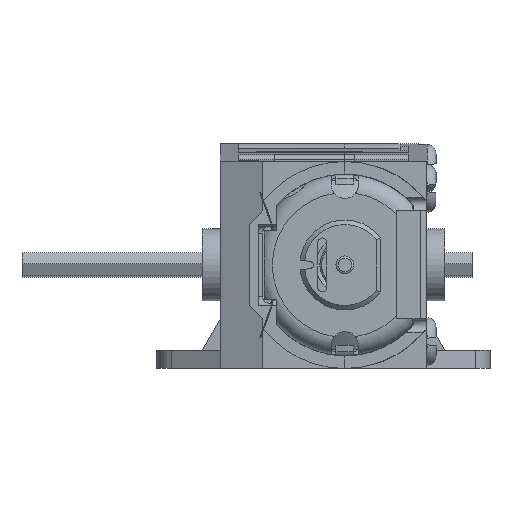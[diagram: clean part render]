
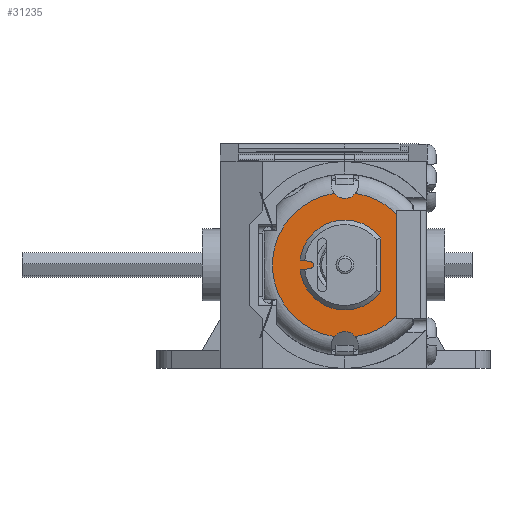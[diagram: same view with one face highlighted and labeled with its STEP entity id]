
A CAD part, left-side view. The second image highlights one B-rep face of the part: STEP entity #31235.
In plain terms, the highlighted planar face has unit normal (-1, 0, 0) as drawn and (0, 0, -1) by its records, which use the part's own axes.
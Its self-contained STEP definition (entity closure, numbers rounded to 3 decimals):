
#1786=FACE_BOUND('',#4803,.T.);
#2211=PLANE('',#33498);
#2987=FACE_OUTER_BOUND('',#4802,.T.);
#4802=EDGE_LOOP('',(#22261,#22262,#22263,#22264,#22265,#22266));
#4803=EDGE_LOOP('',(#22267,#22268,#22269,#22270,#22271,#22272));
#6982=LINE('',#49506,#9197);
#6983=LINE('',#49510,#9198);
#6984=LINE('',#49512,#9199);
#6985=LINE('',#49515,#9200);
#9197=VECTOR('',#37830,1000.);
#9198=VECTOR('',#37833,1000.);
#9199=VECTOR('',#37834,1000.);
#9200=VECTOR('',#37837,1000.);
#10933=CIRCLE('',#33417,1.5);
#10952=CIRCLE('',#33444,5.);
#10974=CIRCLE('',#33477,8.05);
#10976=CIRCLE('',#33481,8.05);
#10986=CIRCLE('',#33499,8.05);
#10987=CIRCLE('',#33500,1.5);
#10988=CIRCLE('',#33501,5.);
#10989=CIRCLE('',#33502,0.4);
#12740=VERTEX_POINT('',#49015);
#12741=VERTEX_POINT('',#49026);
#12772=VERTEX_POINT('',#49111);
#12773=VERTEX_POINT('',#49113);
#12848=VERTEX_POINT('',#49365);
#12852=VERTEX_POINT('',#49399);
#12885=VERTEX_POINT('',#49502);
#12886=VERTEX_POINT('',#49503);
#12887=VERTEX_POINT('',#49507);
#12888=VERTEX_POINT('',#49508);
#12889=VERTEX_POINT('',#49511);
#12890=VERTEX_POINT('',#49513);
#16264=EDGE_CURVE('',#12741,#12740,#10933,.T.);
#16299=EDGE_CURVE('',#12772,#12773,#10952,.T.);
#16385=EDGE_CURVE('',#12848,#12741,#10974,.T.);
#16393=EDGE_CURVE('',#12740,#12852,#10976,.T.);
#16436=EDGE_CURVE('',#12885,#12886,#10986,.T.);
#16437=EDGE_CURVE('',#12886,#12848,#10987,.T.);
#16438=EDGE_CURVE('',#12885,#12852,#6982,.T.);
#16439=EDGE_CURVE('',#12887,#12888,#10988,.T.);
#16440=EDGE_CURVE('',#12773,#12887,#6983,.T.);
#16441=EDGE_CURVE('',#12772,#12889,#6984,.T.);
#16442=EDGE_CURVE('',#12889,#12890,#10989,.T.);
#16443=EDGE_CURVE('',#12890,#12888,#6985,.T.);
#22261=ORIENTED_EDGE('',*,*,#16436,.T.);
#22262=ORIENTED_EDGE('',*,*,#16437,.T.);
#22263=ORIENTED_EDGE('',*,*,#16385,.T.);
#22264=ORIENTED_EDGE('',*,*,#16264,.T.);
#22265=ORIENTED_EDGE('',*,*,#16393,.T.);
#22266=ORIENTED_EDGE('',*,*,#16438,.F.);
#22267=ORIENTED_EDGE('',*,*,#16439,.F.);
#22268=ORIENTED_EDGE('',*,*,#16440,.F.);
#22269=ORIENTED_EDGE('',*,*,#16299,.F.);
#22270=ORIENTED_EDGE('',*,*,#16441,.T.);
#22271=ORIENTED_EDGE('',*,*,#16442,.T.);
#22272=ORIENTED_EDGE('',*,*,#16443,.T.);
#31235=ADVANCED_FACE('',(#2987,#1786),#2211,.F.);
#33417=AXIS2_PLACEMENT_3D('',#49027,#37558,#37559);
#33444=AXIS2_PLACEMENT_3D('',#49114,#37625,#37626);
#33477=AXIS2_PLACEMENT_3D('',#49366,#37748,#37749);
#33481=AXIS2_PLACEMENT_3D('',#49410,#37758,#37759);
#33498=AXIS2_PLACEMENT_3D('',#49501,#37824,#37825);
#33499=AXIS2_PLACEMENT_3D('',#49504,#37826,#37827);
#33500=AXIS2_PLACEMENT_3D('',#49505,#37828,#37829);
#33501=AXIS2_PLACEMENT_3D('',#49509,#37831,#37832);
#33502=AXIS2_PLACEMENT_3D('',#49514,#37835,#37836);
#37558=DIRECTION('center_axis',(0.,0.,1.));
#37559=DIRECTION('ref_axis',(1.,0.,0.));
#37625=DIRECTION('center_axis',(0.,0.,-1.));
#37626=DIRECTION('ref_axis',(-1.,0.,0.));
#37748=DIRECTION('center_axis',(0.,0.,-1.));
#37749=DIRECTION('ref_axis',(1.,0.,0.));
#37758=DIRECTION('center_axis',(0.,0.,-1.));
#37759=DIRECTION('ref_axis',(1.,0.,0.));
#37824=DIRECTION('center_axis',(0.,0.,1.));
#37825=DIRECTION('ref_axis',(1.,0.,0.));
#37826=DIRECTION('center_axis',(0.,0.,-1.));
#37827=DIRECTION('ref_axis',(1.,0.,0.));
#37828=DIRECTION('center_axis',(0.,0.,1.));
#37829=DIRECTION('ref_axis',(1.,0.,0.));
#37830=DIRECTION('',(1.,0.,0.));
#37831=DIRECTION('center_axis',(0.,0.,-1.));
#37832=DIRECTION('ref_axis',(-1.,0.,0.));
#37833=DIRECTION('',(-1.,0.,0.));
#37834=DIRECTION('',(-0.135,-0.991,0.));
#37835=DIRECTION('center_axis',(0.,0.,-1.));
#37836=DIRECTION('ref_axis',(1.,0.,0.));
#37837=DIRECTION('',(-0.135,0.991,0.));
#49015=CARTESIAN_POINT('',(7.964,-1.172,-5.1));
#49026=CARTESIAN_POINT('',(7.964,1.172,-5.1));
#49027=CARTESIAN_POINT('Origin',(8.9,0.,-5.1));
#49111=CARTESIAN_POINT('',(0.55,4.97,-5.1));
#49113=CARTESIAN_POINT('',(3.,-4.,-5.1));
#49114=CARTESIAN_POINT('Origin',(0.,0.,-5.1));
#49365=CARTESIAN_POINT('',(-7.964,1.172,-5.1));
#49366=CARTESIAN_POINT('Origin',(0.,0.,-5.1));
#49399=CARTESIAN_POINT('',(2.793,-7.55,-5.1));
#49410=CARTESIAN_POINT('Origin',(0.,0.,-5.1));
#49501=CARTESIAN_POINT('Origin',(0.,0.,-5.1));
#49502=CARTESIAN_POINT('',(-2.793,-7.55,-5.1));
#49503=CARTESIAN_POINT('',(-7.964,-1.172,-5.1));
#49504=CARTESIAN_POINT('Origin',(0.,0.,-5.1));
#49505=CARTESIAN_POINT('Origin',(-8.9,0.,-5.1));
#49506=CARTESIAN_POINT('',(-6.633,-7.55,-5.1));
#49507=CARTESIAN_POINT('',(-3.,-4.,-5.1));
#49508=CARTESIAN_POINT('',(-0.55,4.97,-5.1));
#49509=CARTESIAN_POINT('Origin',(0.,0.,-5.1));
#49510=CARTESIAN_POINT('',(3.,-4.,-5.1));
#49511=CARTESIAN_POINT('',(0.396,3.846,-5.1));
#49512=CARTESIAN_POINT('',(0.55,4.97,-5.1));
#49513=CARTESIAN_POINT('',(-0.396,3.846,-5.1));
#49514=CARTESIAN_POINT('Origin',(0.,3.9,-5.1));
#49515=CARTESIAN_POINT('',(-0.396,3.846,-5.1));
